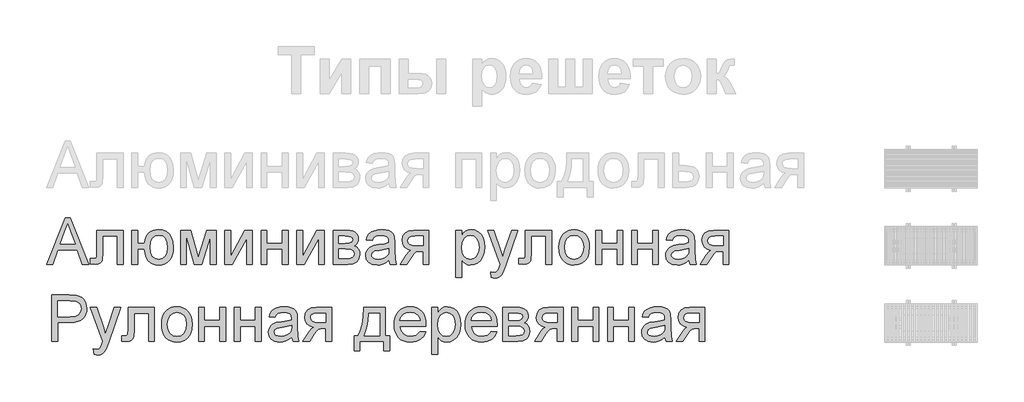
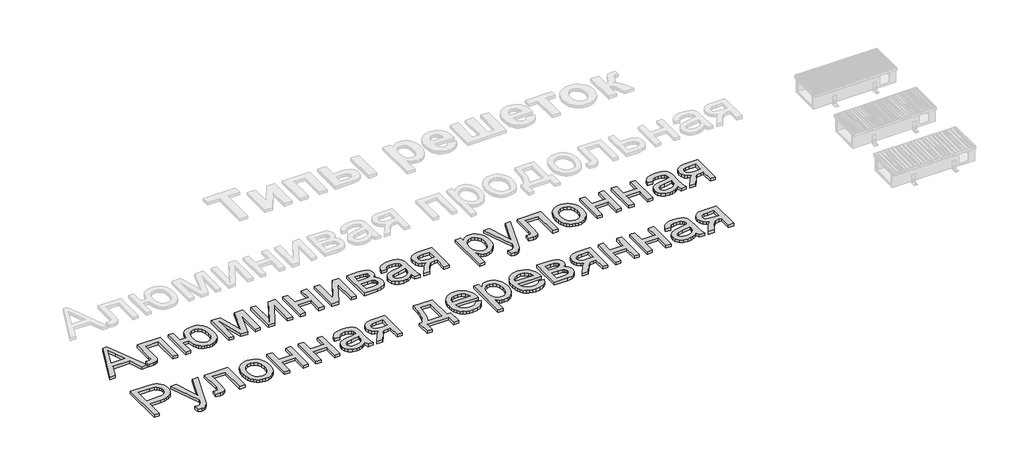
# One storey, part 3 of 12: 2 proxies.
"""IFC4 building model written with IfcOpenShell, lengths in millimetres."""

from ifc_helpers import new_model, si_unit, origin, origin_with_axes, place, context, project, spatial, polyline, outline, extrude, element, save

model = new_model("IFC4")

# Units and contexts
model_context = context("Model", 3, world=origin())
ifc_project = project(units=[si_unit("LENGTHUNIT", "METRE", prefix="MILLI")], contexts=[model_context])

# Site, building, storey
site = spatial("IfcSite", under=ifc_project)
building = spatial("IfcBuilding", under=site)
storey = spatial("IfcBuildingStorey", under=building, Name="Уровень 1", Elevation=0.0)

# Proxies
placement = place(None, origin())
element("IfcBuildingElementProxy", 1, Name="300", ObjectType="300", at=placement, inside=storey, context=model_context, shape_type="SweptSolid", body=[
    extrude(outline(polyline([(29.0156644, -13415.1127464), (149.3130768, -13113.7438159), (181.3923868, -13113.7438159), (301.6897992, -13415.1127464), (261.8849673, -13415.1127464), (227.3776362, -13320.9349556), (103.254251, -13320.9349556), (68.8204963, -13415.1127464), (29.0156644, -13415.1127464)]), holes=[polyline([(117.086614, -13283.2638393), (213.6188496, -13283.2638393), (186.4691583, -13209.1724055), (165.3527318, -13151.4149322), (146.5907501, -13202.6976824), (117.086614, -13283.2638393)])]), origin_with_axes(), (0.0, 0.0, 1.0), 20.0),
    extrude(outline(polyline([(356.0627581, -13193.7949381), (525.5827815, -13193.7949381), (525.5827815, -13414.8920172), (487.9116652, -13414.8920172), (487.9116652, -13231.4660544), (393.7338744, -13231.4660544), (393.7338744, -13337.048187), (391.1954887, -13385.7557632), (386.4406139, -13396.783026), (377.252761, -13406.3203667), (363.3100334, -13412.9146515), (344.2905343, -13415.1127464), (313.6827523, -13413.19976), (313.6827523, -13377.4416301), (330.5317476, -13377.4416301), (347.564684, -13375.1239735), (354.3705009, -13367.7663336), (356.0627581, -13334.9144714), (356.0627581, -13193.7949381)])), origin_with_axes(), (0.0, 0.0, 1.0), 20.0),
    extrude(outline(polyline([(582.0894559, -13193.7949381), (619.7605723, -13193.7949381), (619.7605723, -13278.5549498), (662.1405781, -13278.5549498), (671.9170421, -13240.1480695), (680.4404081, -13224.8073903), (691.3871967, -13212.041885), (704.4493068, -13201.9987066), (719.3186372, -13194.8250077), (754.4789589, -13189.0860485), (784.0290802, -13192.4613658), (806.6078376, -13202.5873178), (824.0270501, -13218.6361698), (838.0985364, -13239.7801875), (847.3967538, -13267.5920663), (850.4961596, -13303.6445018), (848.8935737, -13330.4998875), (844.0858159, -13353.8971824), (836.0728862, -13373.8363865), (824.8547846, -13390.3174999), (810.8913636, -13403.2255594), (794.6424757, -13412.4456019), (776.1081209, -13417.9776274), (755.2882993, -13419.8216359), (735.8848233, -13418.0925905), (718.5092968, -13412.9054544), (703.1617198, -13404.2602275), (689.8420923, -13392.1569099), (678.8815081, -13377.0369599), (670.611061, -13359.3418359), (662.1405781, -13316.2260661), (619.7605723, -13316.2260661), (619.7605723, -13415.1127464), (582.0894559, -13415.1127464), (582.0894559, -13193.7949381)]), holes=[polyline([(756.9069801, -13226.7571648), (732.8934828, -13231.6316013), (714.858068, -13246.2549106), (703.5732878, -13269.6705996), (699.8116944, -13300.9221751), (703.600879, -13337.3332956), (714.9684326, -13362.5424093), (732.6819507, -13377.248492), (755.5090285, -13382.1505196), (778.4004856, -13377.616374), (796.7486001, -13364.0139373), (808.8059325, -13340.3131397), (812.8250433, -13305.4839118), (809.3485585, -13271.04096), (798.9191039, -13246.4388516), (781.4631032, -13231.6775865), (756.9069801, -13226.7571648)])]), origin_with_axes(), (0.0, 0.0, 1.0), 20.0),
    extrude(outline(polyline([(897.585055, -13193.7949381), (962.4058626, -13193.7949381), (1012.3642375, -13370.966907), (1066.2221616, -13193.7949381), (1128.3206424, -13193.7949381), (1128.3206424, -13415.1127464), (1090.6495261, -13415.1127464), (1090.6495261, -13236.9107079), (1036.4972964, -13415.1127464), (987.0539562, -13415.1127464), (935.2561713, -13228.3758456), (935.2561713, -13415.1127464), (897.585055, -13415.1127464), (897.585055, -13193.7949381)])), origin_with_axes(), (0.0, 0.0, 1.0), 20.0),
    extrude(outline(polyline([(1184.8273168, -13193.7949381), (1222.4984332, -13193.7949381), (1222.4984332, -13362.5791975), (1315.0575431, -13193.7949381), (1363.7651193, -13193.7949381), (1363.7651193, -13415.1127464), (1326.094003, -13415.1127464), (1326.094003, -13247.3585566), (1234.1235042, -13415.1127464), (1184.8273168, -13415.1127464), (1184.8273168, -13193.7949381)])), origin_with_axes(), (0.0, 0.0, 1.0), 20.0),
    extrude(outline(polyline([(1420.2717938, -13193.7949381), (1457.9429101, -13193.7949381), (1457.9429101, -13278.5549498), (1556.8295904, -13278.5549498), (1556.8295904, -13193.7949381), (1594.5007067, -13193.7949381), (1594.5007067, -13415.1127464), (1556.8295904, -13415.1127464), (1556.8295904, -13316.2260661), (1457.9429101, -13316.2260661), (1457.9429101, -13415.1127464), (1420.2717938, -13415.1127464), (1420.2717938, -13193.7949381)])), origin_with_axes(), (0.0, 0.0, 1.0), 20.0),
    extrude(outline(polyline([(1651.0073811, -13193.7949381), (1688.6784974, -13193.7949381), (1688.6784974, -13362.5791975), (1781.2376074, -13193.7949381), (1829.9451836, -13193.7949381), (1829.9451836, -13415.1127464), (1792.2740673, -13415.1127464), (1792.2740673, -13247.3585566), (1700.3035685, -13415.1127464), (1651.0073811, -13415.1127464), (1651.0073811, -13193.7949381)])), origin_with_axes(), (0.0, 0.0, 1.0), 20.0),
    extrude(outline(polyline([(1886.451858, -13193.7949381), (1969.4460362, -13193.7949381), (1996.1266779, -13195.0549339), (2014.953039, -13198.8349214), (2028.8037961, -13205.9718321), (2040.5576258, -13217.3025976), (2048.5866504, -13232.0638626), (2051.2629919, -13249.4922722), (2049.6443111, -13263.5361673), (2044.7882688, -13275.648682), (2036.6764708, -13285.8849985), (2025.290523, -13294.3002992), (2039.2332506, -13302.1269886), (2050.6008043, -13314.7177499), (2058.1607793, -13331.0793016), (2060.680771, -13350.2183624), (2054.2980183, -13378.9315522), (2039.122886, -13399.1466678), (2015.1001918, -13411.1212267), (1982.1747532, -13415.1127464), (1886.451858, -13415.1127464), (1886.451858, -13193.7949381)]), holes=[polyline([(1924.1229744, -13278.5549498), (1961.3526323, -13278.5549498), (1992.0707789, -13276.6419634), (2007.0067879, -13268.9900179), (2011.9456037, -13262.6624476), (2013.5918756, -13255.1576549), (2010.7040019, -13243.9188599), (2002.0403809, -13236.6899787), (1986.387002, -13232.7720355), (1962.5298546, -13231.4660544), (1924.1229744, -13231.4660544), (1924.1229744, -13278.5549498)]), polyline([(1924.1229744, -13377.4416301), (1970.3289529, -13377.4416301), (1995.5104755, -13375.7401758), (2011.3110072, -13370.6358132), (2019.7906872, -13361.3559898), (2023.0096547, -13347.1281537), (2021.4001709, -13337.7011775), (2016.5717197, -13328.9915713), (2009.1588975, -13322.1765573), (1999.7963008, -13318.433358), (1966.650133, -13316.2260661), (1924.1229744, -13316.2260661), (1924.1229744, -13377.4416301)])]), origin_with_axes(), (0.0, 0.0, 1.0), 20.0),
    extrude(outline(polyline([(2249.0363525, -13386.8594092), (2231.0377259, -13402.2920588), (2212.5056704, -13412.3904196), (2193.0171217, -13417.9638318), (2172.1490155, -13419.8216359), (2140.6675138, -13415.3518697), (2117.4449628, -13401.942571), (2103.1251562, -13381.5803025), (2098.3518873, -13356.2516272), (2100.154509, -13340.6350365), (2105.5623744, -13326.4531855), (2113.9040986, -13314.3130797), (2124.5082971, -13304.8217242), (2150.8854362, -13292.4608892), (2183.479781, -13286.7955065), (2221.9970258, -13280.8358181), (2248.8156233, -13273.8460602), (2249.0363525, -13265.4583507), (2246.4427844, -13248.6461436), (2238.6620802, -13237.6464719), (2221.2612619, -13229.4794916), (2197.0178384, -13226.7571648), (2174.5770367, -13228.5689837), (2158.9052637, -13234.0044402), (2148.2182917, -13244.0568157), (2140.7318931, -13259.7193916), (2103.0607768, -13255.0105021), (2109.5998793, -13234.4091103), (2119.3579492, -13218.2223026), (2133.2454945, -13205.8430734), (2152.1730232, -13196.6644176), (2175.3219977, -13190.9806408), (2201.8738807, -13189.0860485), (2227.3405118, -13190.7599116), (2247.5280363, -13195.7815009), (2262.7491539, -13203.3322788), (2273.3165642, -13212.593708), (2280.3247162, -13224.0440351), (2284.8680588, -13238.1615067), (2286.7074688, -13271.1237335), (2286.7074688, -13317.9918997), (2288.6204552, -13383.4381066), (2296.1252479, -13415.1127464), (2258.4541316, -13415.1127464), (2249.0363525, -13386.8594092)]), holes=[polyline([(2249.0363525, -13311.5171765), (2188.2622469, -13323.0686712), (2155.8518431, -13329.1755123), (2141.1733515, -13339.1083262), (2136.0230036, -13353.6028768), (2138.8281038, -13364.8048835), (2147.2434044, -13373.9835393), (2161.0849645, -13380.1087745), (2180.168843, -13382.1505196), (2200.4023527, -13379.8972424), (2218.2814177, -13373.1374107), (2232.7759683, -13363.1770057), (2242.855935, -13351.3220084), (2247.3257012, -13339.1083262), (2248.8156233, -13322.1857544), (2249.0363525, -13311.5171765)])]), origin_with_axes(), (0.0, 0.0, 1.0), 20.0),
    extrude(outline(polyline([(2508.0252771, -13193.7949381), (2508.0252771, -13415.1127464), (2470.3541608, -13415.1127464), (2470.3541608, -13330.3527347), (2449.8263455, -13330.3527347), (2421.8673138, -13335.1352006), (2410.7020953, -13345.5646552), (2395.6005394, -13367.288087), (2365.5813686, -13415.1127464), (2322.0241403, -13415.1127464), (2359.8424094, -13354.6329464), (2376.544252, -13332.9279087), (2391.9217194, -13323.2894004), (2366.1699798, -13315.3983316), (2348.0701856, -13300.4071403), (2337.3648195, -13280.4679361), (2333.7963642, -13257.7328288), (2338.6708006, -13231.944301), (2353.2941099, -13211.5268502), (2377.1512573, -13198.2279161), (2409.727208, -13193.7949381), (2508.0252771, -13193.7949381)]), holes=[polyline([(2470.3541608, -13231.4660544), (2420.6900914, -13231.4660544), (2395.0395193, -13233.6457552), (2380.4805894, -13240.1848577), (2373.7207577, -13249.648622), (2371.4674805, -13260.6023084), (2374.7876155, -13274.9589033), (2384.7480205, -13284.9193083), (2403.1513173, -13290.7410409), (2431.8001277, -13292.6816184), (2470.3541608, -13292.6816184), (2470.3541608, -13231.4660544)])]), origin_with_axes(), (0.0, 0.0, 1.0), 20.0),
    extrude(outline(polyline([(2682.25419, -13499.8727581), (2682.25419, -13193.7949381), (2719.9253063, -13193.7949381), (2719.9253063, -13230.7302904), (2732.212565, -13212.5109346), (2745.9713516, -13199.497109), (2762.0110066, -13191.6888137), (2781.1408703, -13189.0860485), (2806.6166985, -13192.7280803), (2828.8919533, -13203.6541756), (2847.0285357, -13221.2021467), (2860.0883465, -13244.7098062), (2867.9794153, -13272.4665028), (2870.6097715, -13302.7615851), (2867.6391244, -13334.9788508), (2858.7271831, -13363.7932081), (2844.1590561, -13387.7423259), (2824.219852, -13405.3638735), (2800.997301, -13416.2071953), (2776.5791336, -13419.8216359), (2759.2610887, -13417.4028118), (2743.8008478, -13410.1463394), (2730.566293, -13399.192653), (2719.9253063, -13385.6821868), (2719.9253063, -13499.8727581), (2682.25419, -13499.8727581)]), holes=[polyline([(2719.9253063, -13306.2196758), (2723.9995994, -13339.991243), (2736.2224787, -13363.6092671), (2754.2578935, -13377.5152065), (2775.7697932, -13382.1505196), (2797.6311808, -13377.3496596), (2816.1264481, -13362.9470795), (2828.7356034, -13338.4645327), (2832.9386552, -13303.4237726), (2828.836771, -13269.8361465), (2816.5311183, -13245.8870286), (2798.5232946, -13231.5396308), (2777.3148976, -13226.7571648), (2756.0237271, -13231.8431334), (2737.3261247, -13247.1010392), (2724.2755109, -13272.0526355), (2719.9253063, -13306.2196758)])]), origin_with_axes(), (0.0, 0.0, 1.0), 20.0),
    extrude(outline(polyline([(2912.9897774, -13499.8727581), (2908.2808879, -13463.5995933), (2927.4107516, -13466.9105313), (2945.2898166, -13462.7534648), (2956.2527, -13451.1651819), (2966.5533959, -13423.4268795), (2969.4964518, -13414.303406), (2889.4453297, -13193.7949381), (2929.1765852, -13193.7949381), (2971.6301674, -13316.6675245), (2986.4190236, -13365.816559), (3001.2078798, -13322.4064836), (3044.8386845, -13193.7949381), (3084.2756343, -13193.7949381), (3007.2411446, -13420.4102471), (2987.228364, -13469.5592817), (2976.9828504, -13485.2494488), (2965.3761735, -13496.1203617), (2951.8932984, -13502.4663261), (2936.0191903, -13504.5816476), (2912.9897774, -13499.8727581)])), origin_with_axes(), (0.0, 0.0, 1.0), 20.0),
    extrude(outline(polyline([(3134.3075857, -13193.7949381), (3303.8276091, -13193.7949381), (3303.8276091, -13414.8920172), (3266.1564928, -13414.8920172), (3266.1564928, -13231.4660544), (3171.978702, -13231.4660544), (3171.978702, -13337.048187), (3169.4403162, -13385.7557632), (3164.6854414, -13396.783026), (3155.4975886, -13406.3203667), (3141.554861, -13412.9146515), (3122.5353618, -13415.1127464), (3091.9275798, -13413.19976), (3091.9275798, -13377.4416301), (3108.7765752, -13377.4416301), (3125.8095116, -13375.1239735), (3132.6153285, -13367.7663336), (3134.3075857, -13334.9144714), (3134.3075857, -13193.7949381)])), origin_with_axes(), (0.0, 0.0, 1.0), 20.0),
    extrude(outline(polyline([(3350.9165044, -13304.4538422), (3352.953651, -13275.7912363), (3359.0650906, -13251.0925588), (3369.2508234, -13230.3578099), (3383.5108492, -13213.5869894), (3397.8674441, -13202.8678278), (3413.713961, -13195.2112838), (3431.0504, -13190.6173573), (3449.8767611, -13189.0860485), (3470.6597946, -13190.9507504), (3489.4516668, -13196.544856), (3506.2523776, -13205.8683653), (3521.0619272, -13218.9212784), (3533.14915, -13235.2621367), (3541.7828806, -13254.449482), (3546.9631189, -13276.4833143), (3548.6898651, -13301.3636335), (3545.6364445, -13339.4210259), (3536.4761828, -13368.391733), (3521.4757945, -13390.0875737), (3500.9019939, -13406.3203667), (3476.4654324, -13416.4463186), (3449.8767611, -13419.8216359), (3428.790225, -13417.9638318), (3409.8236089, -13412.3904196), (3392.9769128, -13403.1013992), (3378.2501367, -13390.0967707), (3366.2916726, -13373.5972632), (3357.7499125, -13353.823606), (3352.6248565, -13330.775799), (3350.9165044, -13304.4538422)]), holes=[polyline([(3388.5876208, -13304.3802658), (3392.9470224, -13338.4737297), (3406.0252273, -13362.7631385), (3425.7069141, -13377.3036743), (3449.8767611, -13382.1505196), (3473.9362436, -13377.2760832), (3493.5811422, -13362.6527739), (3506.6593471, -13338.0414684), (3511.0187487, -13303.2030434), (3506.631756, -13270.1028609), (3493.4707776, -13246.144546), (3473.7982879, -13231.6040101), (3449.8767611, -13226.7571648), (3425.7069141, -13231.585616), (3406.0252273, -13246.0709696), (3392.9470224, -13270.305196), (3388.5876208, -13304.3802658)])]), origin_with_axes(), (0.0, 0.0, 1.0), 20.0),
    extrude(outline(polyline([(3591.0698709, -13193.7949381), (3628.7409872, -13193.7949381), (3628.7409872, -13278.5549498), (3727.6276675, -13278.5549498), (3727.6276675, -13193.7949381), (3765.2987838, -13193.7949381), (3765.2987838, -13415.1127464), (3727.6276675, -13415.1127464), (3727.6276675, -13316.2260661), (3628.7409872, -13316.2260661), (3628.7409872, -13415.1127464), (3591.0698709, -13415.1127464), (3591.0698709, -13193.7949381)])), origin_with_axes(), (0.0, 0.0, 1.0), 20.0),
    extrude(outline(polyline([(3821.8054583, -13193.7949381), (3859.4765746, -13193.7949381), (3859.4765746, -13278.5549498), (3958.3632549, -13278.5549498), (3958.3632549, -13193.7949381), (3996.0343712, -13193.7949381), (3996.0343712, -13415.1127464), (3958.3632549, -13415.1127464), (3958.3632549, -13316.2260661), (3859.4765746, -13316.2260661), (3859.4765746, -13415.1127464), (3821.8054583, -13415.1127464), (3821.8054583, -13193.7949381)])), origin_with_axes(), (0.0, 0.0, 1.0), 20.0),
    extrude(outline(polyline([(4193.8077318, -13386.8594092), (4175.8091052, -13402.2920588), (4157.2770497, -13412.3904196), (4137.788501, -13417.9638318), (4116.9203948, -13419.8216359), (4085.4388931, -13415.3518697), (4062.2163421, -13401.942571), (4047.8965355, -13381.5803025), (4043.1232666, -13356.2516272), (4044.9258883, -13340.6350365), (4050.3337537, -13326.4531855), (4058.6754779, -13314.3130797), (4069.2796764, -13304.8217242), (4095.6568155, -13292.4608892), (4128.2511603, -13286.7955065), (4166.7684052, -13280.8358181), (4193.5870026, -13273.8460602), (4193.8077318, -13265.4583507), (4191.2141637, -13248.6461436), (4183.4334595, -13237.6464719), (4166.0326412, -13229.4794916), (4141.7892177, -13226.7571648), (4119.348416, -13228.5689837), (4103.676643, -13234.0044402), (4092.989671, -13244.0568157), (4085.5032724, -13259.7193916), (4047.8321561, -13255.0105021), (4054.3712586, -13234.4091103), (4064.1293285, -13218.2223026), (4078.0168738, -13205.8430734), (4096.9444025, -13196.6644176), (4120.093377, -13190.9806408), (4146.64526, -13189.0860485), (4172.1118911, -13190.7599116), (4192.2994156, -13195.7815009), (4207.5205332, -13203.3322788), (4218.0879435, -13212.593708), (4225.0960955, -13224.0440351), (4229.6394381, -13238.1615067), (4231.4788481, -13271.1237335), (4231.4788481, -13317.9918997), (4233.3918345, -13383.4381066), (4240.8966272, -13415.1127464), (4203.2255109, -13415.1127464), (4193.8077318, -13386.8594092)]), holes=[polyline([(4193.8077318, -13311.5171765), (4133.0336262, -13323.0686712), (4100.6232224, -13329.1755123), (4085.9447308, -13339.1083262), (4080.7943829, -13353.6028768), (4083.5994831, -13364.8048835), (4092.0147837, -13373.9835393), (4105.8563438, -13380.1087745), (4124.9402223, -13382.1505196), (4145.173732, -13379.8972424), (4163.052797, -13373.1374107), (4177.5473476, -13363.1770057), (4187.6273143, -13351.3220084), (4192.0970805, -13339.1083262), (4193.5870026, -13322.1857544), (4193.8077318, -13311.5171765)])]), origin_with_axes(), (0.0, 0.0, 1.0), 20.0),
    extrude(outline(polyline([(4452.7966564, -13193.7949381), (4452.7966564, -13415.1127464), (4415.1255401, -13415.1127464), (4415.1255401, -13330.3527347), (4394.5977248, -13330.3527347), (4366.6386931, -13335.1352006), (4355.4734746, -13345.5646552), (4340.3719187, -13367.288087), (4310.3527479, -13415.1127464), (4266.7955196, -13415.1127464), (4304.6137887, -13354.6329464), (4321.3156313, -13332.9279087), (4336.6930987, -13323.2894004), (4310.9413591, -13315.3983316), (4292.8415649, -13300.4071403), (4282.1361988, -13280.4679361), (4278.5677435, -13257.7328288), (4283.4421799, -13231.944301), (4298.0654892, -13211.5268502), (4321.9226366, -13198.2279161), (4354.4985873, -13193.7949381), (4452.7966564, -13193.7949381)]), holes=[polyline([(4415.1255401, -13231.4660544), (4365.4614707, -13231.4660544), (4339.8108986, -13233.6457552), (4325.2519687, -13240.1848577), (4318.492137, -13249.648622), (4316.2388598, -13260.6023084), (4319.5589948, -13274.9589033), (4329.5193998, -13284.9193083), (4347.9226966, -13290.7410409), (4376.571507, -13292.6816184), (4415.1255401, -13292.6816184), (4415.1255401, -13231.4660544)])]), origin_with_axes(), (0.0, 0.0, 1.0), 20.0),
])
element("IfcBuildingElementProxy", 2, Name="300", ObjectType="300", at=placement, inside=storey, context=model_context, shape_type="SweptSolid", body=[
    extrude(outline(polyline([(64.1116067, -13915.1127464), (64.1116067, -13613.7438159), (175.8005805, -13613.7438159), (220.8293367, -13616.6132955), (240.9064966, -13621.9751756), (257.4335952, -13630.7031759), (270.7417264, -13643.1927696), (281.1619839, -13659.8394299), (287.8942244, -13679.4751314), (290.1383046, -13700.9318488), (288.6230906, -13719.4317146), (284.0774487, -13736.4508554), (276.5013789, -13751.9892712), (265.8948811, -13766.0469619), (251.3336519, -13777.6996241), (231.8933877, -13786.0229543), (207.5740885, -13791.0169524), (178.3757544, -13792.6816184), (101.782723, -13792.6816184), (101.782723, -13915.1127464), (64.1116067, -13915.1127464)]), holes=[polyline([(101.782723, -13755.0105021), (180.5830464, -13755.0105021), (213.9867316, -13751.5524113), (236.0596513, -13741.1781391), (248.365304, -13724.5314788), (252.4671883, -13702.256224), (250.0483642, -13685.3336522), (242.7918918, -13671.0598308), (231.5990821, -13660.3176765), (217.3712459, -13653.9901062), (179.7001296, -13651.4149322), (101.782723, -13651.4149322), (101.782723, -13755.0105021)])]), origin_with_axes(), (0.0, 0.0, 1.0), 20.0),
    extrude(outline(polyline([(337.2272, -13999.8727581), (332.5183104, -13963.5995933), (351.6481742, -13966.9105313), (369.5272391, -13962.7534648), (380.4901226, -13951.1651819), (390.7908185, -13923.4268795), (393.7338744, -13914.303406), (313.6827523, -13693.7949381), (353.4140077, -13693.7949381), (395.86759, -13816.6675245), (410.6564462, -13865.816559), (425.4453024, -13822.4064836), (469.076107, -13693.7949381), (508.5130569, -13693.7949381), (431.4785671, -13920.4102471), (411.4657866, -13969.5592817), (401.220273, -13985.2494488), (389.6135961, -13996.1203617), (376.1307209, -14002.4663261), (360.2566129, -14004.5816476), (337.2272, -13999.8727581)])), origin_with_axes(), (0.0, 0.0, 1.0), 20.0),
    extrude(outline(polyline([(558.5450083, -13693.7949381), (728.0650316, -13693.7949381), (728.0650316, -13914.8920172), (690.3939153, -13914.8920172), (690.3939153, -13731.4660544), (596.2161246, -13731.4660544), (596.2161246, -13837.048187), (593.6777388, -13885.7557632), (588.922864, -13896.783026), (579.7350112, -13906.3203667), (565.7922836, -13912.9146515), (546.7727844, -13915.1127464), (516.1650024, -13913.19976), (516.1650024, -13877.4416301), (533.0139978, -13877.4416301), (550.0469342, -13875.1239735), (556.8527511, -13867.7663336), (558.5450083, -13834.9144714), (558.5450083, -13693.7949381)])), origin_with_axes(), (0.0, 0.0, 1.0), 20.0),
    extrude(outline(polyline([(775.153927, -13804.4538422), (777.1910736, -13775.7912363), (783.3025132, -13751.0925588), (793.488246, -13730.3578099), (807.7482718, -13713.5869894), (822.1048667, -13702.8678278), (837.9513836, -13695.2112838), (855.2878226, -13690.6173573), (874.1141837, -13689.0860485), (894.8972172, -13690.9507504), (913.6890894, -13696.544856), (930.4898002, -13705.8683653), (945.2993498, -13718.9212784), (957.3865726, -13735.2621367), (966.0203032, -13754.449482), (971.2005415, -13776.4833143), (972.9272876, -13801.3636335), (969.8738671, -13839.4210259), (960.7136054, -13868.391733), (945.713217, -13890.0875737), (925.1394165, -13906.3203667), (900.7028549, -13916.4463186), (874.1141837, -13919.8216359), (853.0276476, -13917.9638318), (834.0610315, -13912.3904196), (817.2143354, -13903.1013992), (802.4875593, -13890.0967707), (790.5290952, -13873.5972632), (781.9873351, -13853.823606), (776.862279, -13830.775799), (775.153927, -13804.4538422)]), holes=[polyline([(812.8250433, -13804.3802658), (817.184445, -13838.4737297), (830.2626499, -13862.7631385), (849.9443366, -13877.3036743), (874.1141837, -13882.1505196), (898.1736662, -13877.2760832), (917.8185647, -13862.6527739), (930.8967697, -13838.0414684), (935.2561713, -13803.2030434), (930.8691785, -13770.1028609), (917.7082001, -13746.144546), (898.0357105, -13731.6040101), (874.1141837, -13726.7571648), (849.9443366, -13731.585616), (830.2626499, -13746.0709696), (817.184445, -13770.305196), (812.8250433, -13804.3802658)])]), origin_with_axes(), (0.0, 0.0, 1.0), 20.0),
    extrude(outline(polyline([(1015.3072935, -13693.7949381), (1052.9784098, -13693.7949381), (1052.9784098, -13778.5549498), (1151.8650901, -13778.5549498), (1151.8650901, -13693.7949381), (1189.5362064, -13693.7949381), (1189.5362064, -13915.1127464), (1151.8650901, -13915.1127464), (1151.8650901, -13816.2260661), (1052.9784098, -13816.2260661), (1052.9784098, -13915.1127464), (1015.3072935, -13915.1127464), (1015.3072935, -13693.7949381)])), origin_with_axes(), (0.0, 0.0, 1.0), 20.0),
    extrude(outline(polyline([(1246.0428808, -13693.7949381), (1283.7139971, -13693.7949381), (1283.7139971, -13778.5549498), (1382.6006775, -13778.5549498), (1382.6006775, -13693.7949381), (1420.2717938, -13693.7949381), (1420.2717938, -13915.1127464), (1382.6006775, -13915.1127464), (1382.6006775, -13816.2260661), (1283.7139971, -13816.2260661), (1283.7139971, -13915.1127464), (1246.0428808, -13915.1127464), (1246.0428808, -13693.7949381)])), origin_with_axes(), (0.0, 0.0, 1.0), 20.0),
    extrude(outline(polyline([(1618.0451544, -13886.8594092), (1600.0465278, -13902.2920588), (1581.5144722, -13912.3904196), (1562.0259236, -13917.9638318), (1541.1578174, -13919.8216359), (1509.6763156, -13915.3518697), (1486.4537647, -13901.942571), (1472.133958, -13881.5803025), (1467.3606891, -13856.2516272), (1469.1633109, -13840.6350365), (1474.5711762, -13826.4531855), (1482.9129005, -13814.3130797), (1493.517099, -13804.8217242), (1519.8942381, -13792.4608892), (1552.4885828, -13786.7955065), (1591.0058277, -13780.8358181), (1617.8244252, -13773.8460602), (1618.0451544, -13765.4583507), (1615.4515863, -13748.6461436), (1607.6708821, -13737.6464719), (1590.2700637, -13729.4794916), (1566.0266402, -13726.7571648), (1543.5858385, -13728.5689837), (1527.9140655, -13734.0044402), (1517.2270936, -13744.0568157), (1509.740695, -13759.7193916), (1472.0695787, -13755.0105021), (1478.6086811, -13734.4091103), (1488.3667511, -13718.2223026), (1502.2542964, -13705.8430734), (1521.181825, -13696.6644176), (1544.3307996, -13690.9806408), (1570.8826826, -13689.0860485), (1596.3493137, -13690.7599116), (1616.5368382, -13695.7815009), (1631.7579557, -13703.3322788), (1642.325366, -13712.593708), (1649.3335181, -13724.0440351), (1653.8768607, -13738.1615067), (1655.7162707, -13771.1237335), (1655.7162707, -13817.9918997), (1657.629257, -13883.4381066), (1665.1340497, -13915.1127464), (1627.4629334, -13915.1127464), (1618.0451544, -13886.8594092)]), holes=[polyline([(1618.0451544, -13811.5171765), (1557.2710488, -13823.0686712), (1524.860645, -13829.1755123), (1510.1821534, -13839.1083262), (1505.0318054, -13853.6028768), (1507.8369057, -13864.8048835), (1516.2522063, -13873.9835393), (1530.0937664, -13880.1087745), (1549.1776449, -13882.1505196), (1569.4111546, -13879.8972424), (1587.2902196, -13873.1374107), (1601.7847702, -13863.1770057), (1611.8647368, -13851.3220084), (1616.3345031, -13839.1083262), (1617.8244252, -13822.1857544), (1618.0451544, -13811.5171765)])]), origin_with_axes(), (0.0, 0.0, 1.0), 20.0),
    extrude(outline(polyline([(1877.034079, -13693.7949381), (1877.034079, -13915.1127464), (1839.3629627, -13915.1127464), (1839.3629627, -13830.3527347), (1818.8351473, -13830.3527347), (1790.8761157, -13835.1352006), (1779.7108971, -13845.5646552), (1764.6093412, -13867.288087), (1734.5901704, -13915.1127464), (1691.0329422, -13915.1127464), (1728.8512113, -13854.6329464), (1745.5530539, -13832.9279087), (1760.9305213, -13823.2894004), (1735.1787816, -13815.3983316), (1717.0789875, -13800.4071403), (1706.3736214, -13780.4679361), (1702.8051661, -13757.7328288), (1707.6796025, -13731.944301), (1722.3029118, -13711.5268502), (1746.1600592, -13698.2279161), (1778.7360099, -13693.7949381), (1877.034079, -13693.7949381)]), holes=[polyline([(1839.3629627, -13731.4660544), (1789.6988933, -13731.4660544), (1764.0483212, -13733.6457552), (1749.4893912, -13740.1848577), (1742.7295596, -13749.648622), (1740.4762824, -13760.6023084), (1743.7964174, -13774.9589033), (1753.7568224, -13784.9193083), (1772.1601192, -13790.7410409), (1800.8089296, -13792.6816184), (1839.3629627, -13792.6816184), (1839.3629627, -13731.4660544)])]), origin_with_axes(), (0.0, 0.0, 1.0), 20.0),
    extrude(outline(polyline([(2084.2252187, -13693.7949381), (2225.4919048, -13693.7949381), (2225.4919048, -13877.4416301), (2253.745242, -13877.4416301), (2253.745242, -13976.3283104), (2216.0741257, -13976.3283104), (2216.0741257, -13915.1127464), (2060.680771, -13915.1127464), (2060.680771, -13976.3283104), (2023.0096547, -13976.3283104), (2023.0096547, -13877.4416301), (2046.5541023, -13877.4416301), (2063.6698122, -13846.5119513), (2075.6535682, -13805.5942764), (2082.5053703, -13754.6886053), (2084.2252187, -13693.7949381)]), holes=[polyline([(2117.1874454, -13731.4660544), (2114.0972367, -13777.5892595), (2108.3582775, -13817.2929239), (2099.970568, -13850.5770474), (2088.9341082, -13877.4416301), (2187.8207885, -13877.4416301), (2187.8207885, -13731.4660544), (2117.1874454, -13731.4660544)])]), origin_with_axes(), (0.0, 0.0, 1.0), 20.0),
    extrude(outline(polyline([(2451.0771442, -13849.1882928), (2488.0124966, -13853.8971824), (2474.7043654, -13881.7274553), (2453.4683772, -13902.5311821), (2424.7827786, -13915.4990225), (2389.1258163, -13919.8216359), (2365.751514, -13917.9569341), (2344.9247945, -13912.3628285), (2326.6456579, -13903.0393192), (2310.9141041, -13889.9864061), (2298.263562, -13873.5673728), (2289.2274605, -13854.1455027), (2283.8057996, -13831.7207959), (2281.9985793, -13806.2932522), (2283.8241937, -13780.0034851), (2289.3010369, -13756.831518), (2298.4291089, -13736.7773507), (2311.2084097, -13719.8409833), (2326.8985768, -13706.3856994), (2344.7592476, -13696.7747822), (2364.7904223, -13691.008232), (2386.9921007, -13689.0860485), (2408.4787085, -13691.0036334), (2427.9097756, -13696.7563881), (2445.2853021, -13706.3443126), (2460.6052879, -13719.7674069), (2473.1109765, -13736.6669861), (2482.0436112, -13756.6843652), (2487.403192, -13779.8195441), (2489.1897189, -13806.072523), (2488.9689897, -13816.2260661), (2319.6696956, -13816.2260661), (2326.1904039, -13844.424221), (2341.3379451, -13865.1543714), (2363.1993326, -13877.9014826), (2389.8615802, -13882.1505196), (2409.911149, -13880.1823509), (2426.7969326, -13874.2778449), (2440.518931, -13864.0691195), (2451.0771442, -13849.1882928)]), holes=[polyline([(2319.6696956, -13778.5549498), (2451.5186026, -13778.5549498), (2446.423437, -13758.6525338), (2436.4354408, -13744.4155006), (2414.4728857, -13731.1717488), (2386.8449479, -13726.7571648), (2361.4518932, -13730.279635), (2340.4550283, -13740.8470453), (2325.8593101, -13757.3189616), (2319.6696956, -13778.5549498)])]), origin_with_axes(), (0.0, 0.0, 1.0), 20.0),
    extrude(outline(polyline([(2526.8608353, -13999.8727581), (2526.8608353, -13693.7949381), (2564.5319516, -13693.7949381), (2564.5319516, -13730.7302904), (2576.8192102, -13712.5109346), (2590.5779968, -13699.497109), (2606.6176518, -13691.6888137), (2625.7475156, -13689.0860485), (2651.2233437, -13692.7280803), (2673.4985985, -13703.6541756), (2691.6351809, -13721.2021467), (2704.6949917, -13744.7098062), (2712.5860605, -13772.4665028), (2715.2164168, -13802.7615851), (2712.2457697, -13834.9788508), (2703.3338283, -13863.7932081), (2688.7657013, -13887.7423259), (2668.8264972, -13905.3638735), (2645.6039462, -13916.2071953), (2621.1857788, -13919.8216359), (2603.8677339, -13917.4028118), (2588.407493, -13910.1463394), (2575.1729383, -13899.192653), (2564.5319516, -13885.6821868), (2564.5319516, -13999.8727581), (2526.8608353, -13999.8727581)]), holes=[polyline([(2564.5319516, -13806.2196758), (2568.6062447, -13839.991243), (2580.8291239, -13863.6092671), (2598.8645388, -13877.5152065), (2620.3764384, -13882.1505196), (2642.237826, -13877.3496596), (2660.7330933, -13862.9470795), (2673.3422487, -13838.4645327), (2677.5453005, -13803.4237726), (2673.4434162, -13769.8361465), (2661.1377635, -13745.8870286), (2643.1299398, -13731.5396308), (2621.9215428, -13726.7571648), (2600.6303723, -13731.8431334), (2581.9327699, -13747.1010392), (2568.8821561, -13772.0526355), (2564.5319516, -13806.2196758)])]), origin_with_axes(), (0.0, 0.0, 1.0), 20.0),
    extrude(outline(polyline([(2912.548319, -13849.1882928), (2949.4836713, -13853.8971824), (2936.1755401, -13881.7274553), (2914.939552, -13902.5311821), (2886.2539534, -13915.4990225), (2850.596991, -13919.8216359), (2827.2226887, -13917.9569341), (2806.3959693, -13912.3628285), (2788.1168327, -13903.0393192), (2772.3852788, -13889.9864061), (2759.7347367, -13873.5673728), (2750.6986352, -13854.1455027), (2745.2769743, -13831.7207959), (2743.469754, -13806.2932522), (2745.2953684, -13780.0034851), (2750.7722116, -13756.831518), (2759.9002836, -13736.7773507), (2772.6795844, -13719.8409833), (2788.3697515, -13706.3856994), (2806.2304224, -13696.7747822), (2826.261597, -13691.008232), (2848.4632754, -13689.0860485), (2869.9498832, -13691.0036334), (2889.3809503, -13696.7563881), (2906.7564768, -13706.3443126), (2922.0764627, -13719.7674069), (2934.5821512, -13736.6669861), (2943.5147859, -13756.6843652), (2948.8743668, -13779.8195441), (2950.6608937, -13806.072523), (2950.4401645, -13816.2260661), (2781.1408703, -13816.2260661), (2787.6615787, -13844.424221), (2802.8091198, -13865.1543714), (2824.6705074, -13877.9014826), (2851.332755, -13882.1505196), (2871.3823237, -13880.1823509), (2888.2681073, -13874.2778449), (2901.9901057, -13864.0691195), (2912.548319, -13849.1882928)]), holes=[polyline([(2781.1408703, -13778.5549498), (2912.9897774, -13778.5549498), (2907.8946118, -13758.6525338), (2897.9066156, -13744.4155006), (2875.9440605, -13731.1717488), (2848.3161226, -13726.7571648), (2822.9230679, -13730.279635), (2801.926203, -13740.8470453), (2787.3304849, -13757.3189616), (2781.1408703, -13778.5549498)])]), origin_with_axes(), (0.0, 0.0, 1.0), 20.0),
    extrude(outline(polyline([(2988.33201, -13693.7949381), (3071.3261881, -13693.7949381), (3098.0068298, -13695.0549339), (3116.8331909, -13698.8349214), (3130.683948, -13705.9718321), (3142.4377778, -13717.3025976), (3150.4668023, -13732.0638626), (3153.1431438, -13749.4922722), (3151.5244631, -13763.5361673), (3146.6684207, -13775.648682), (3138.5566227, -13785.8849985), (3127.170675, -13794.3002992), (3141.1134026, -13802.1269886), (3152.4809562, -13814.7177499), (3160.0409312, -13831.0793016), (3162.5609229, -13850.2183624), (3156.1781703, -13878.9315522), (3141.003038, -13899.1466678), (3116.9803437, -13911.1212267), (3084.0549051, -13915.1127464), (2988.33201, -13915.1127464), (2988.33201, -13693.7949381)]), holes=[polyline([(3026.0031263, -13778.5549498), (3063.2327842, -13778.5549498), (3093.9509308, -13776.6419634), (3108.8869398, -13768.9900179), (3113.8257556, -13762.6624476), (3115.4720275, -13755.1576549), (3112.5841539, -13743.9188599), (3103.9205329, -13736.6899787), (3088.267154, -13732.7720355), (3064.4100066, -13731.4660544), (3026.0031263, -13731.4660544), (3026.0031263, -13778.5549498)]), polyline([(3026.0031263, -13877.4416301), (3072.2091049, -13877.4416301), (3097.3906275, -13875.7401758), (3113.1911592, -13870.6358132), (3121.6708392, -13861.3559898), (3124.8898066, -13847.1281537), (3123.2803229, -13837.7011775), (3118.4518717, -13828.9915713), (3111.0390495, -13822.1765573), (3101.6764527, -13818.433358), (3068.5302849, -13816.2260661), (3026.0031263, -13816.2260661), (3026.0031263, -13877.4416301)])]), origin_with_axes(), (0.0, 0.0, 1.0), 20.0),
    extrude(outline(polyline([(3379.1698417, -13693.7949381), (3379.1698417, -13915.1127464), (3341.4987254, -13915.1127464), (3341.4987254, -13830.3527347), (3320.97091, -13830.3527347), (3293.0118784, -13835.1352006), (3281.8466599, -13845.5646552), (3266.745104, -13867.288087), (3236.7259331, -13915.1127464), (3193.1687049, -13915.1127464), (3230.986974, -13854.6329464), (3247.6888166, -13832.9279087), (3263.066284, -13823.2894004), (3237.3145443, -13815.3983316), (3219.2147502, -13800.4071403), (3208.5093841, -13780.4679361), (3204.9409288, -13757.7328288), (3209.8153652, -13731.944301), (3224.4386745, -13711.5268502), (3248.2958219, -13698.2279161), (3280.8717726, -13693.7949381), (3379.1698417, -13693.7949381)]), holes=[polyline([(3341.4987254, -13731.4660544), (3291.834656, -13731.4660544), (3266.1840839, -13733.6457552), (3251.6251539, -13740.1848577), (3244.8653223, -13749.648622), (3242.6120451, -13760.6023084), (3245.9321801, -13774.9589033), (3255.8925851, -13784.9193083), (3274.2958819, -13790.7410409), (3302.9446923, -13792.6816184), (3341.4987254, -13792.6816184), (3341.4987254, -13731.4660544)])]), origin_with_axes(), (0.0, 0.0, 1.0), 20.0),
    extrude(outline(polyline([(3435.6765161, -13693.7949381), (3473.3476324, -13693.7949381), (3473.3476324, -13778.5549498), (3572.2343127, -13778.5549498), (3572.2343127, -13693.7949381), (3609.9054291, -13693.7949381), (3609.9054291, -13915.1127464), (3572.2343127, -13915.1127464), (3572.2343127, -13816.2260661), (3473.3476324, -13816.2260661), (3473.3476324, -13915.1127464), (3435.6765161, -13915.1127464), (3435.6765161, -13693.7949381)])), origin_with_axes(), (0.0, 0.0, 1.0), 20.0),
    extrude(outline(polyline([(3666.4121035, -13693.7949381), (3704.0832198, -13693.7949381), (3704.0832198, -13778.5549498), (3802.9699001, -13778.5549498), (3802.9699001, -13693.7949381), (3840.6410164, -13693.7949381), (3840.6410164, -13915.1127464), (3802.9699001, -13915.1127464), (3802.9699001, -13816.2260661), (3704.0832198, -13816.2260661), (3704.0832198, -13915.1127464), (3666.4121035, -13915.1127464), (3666.4121035, -13693.7949381)])), origin_with_axes(), (0.0, 0.0, 1.0), 20.0),
    extrude(outline(polyline([(4038.414377, -13886.8594092), (4020.4157504, -13902.2920588), (4001.8836949, -13912.3904196), (3982.3951462, -13917.9638318), (3961.52704, -13919.8216359), (3930.0455383, -13915.3518697), (3906.8229874, -13901.942571), (3892.5031807, -13881.5803025), (3887.7299118, -13856.2516272), (3889.5325336, -13840.6350365), (3894.9403989, -13826.4531855), (3903.2821232, -13814.3130797), (3913.8863217, -13804.8217242), (3940.2634607, -13792.4608892), (3972.8578055, -13786.7955065), (4011.3750504, -13780.8358181), (4038.1936478, -13773.8460602), (4038.414377, -13765.4583507), (4035.820809, -13748.6461436), (4028.0401048, -13737.6464719), (4010.6392864, -13729.4794916), (3986.3958629, -13726.7571648), (3963.9550612, -13728.5689837), (3948.2832882, -13734.0044402), (3937.5963163, -13744.0568157), (3930.1099177, -13759.7193916), (3892.4388013, -13755.0105021), (3898.9779038, -13734.4091103), (3908.7359737, -13718.2223026), (3922.6235191, -13705.8430734), (3941.5510477, -13696.6644176), (3964.7000222, -13690.9806408), (3991.2519053, -13689.0860485), (4016.7185364, -13690.7599116), (4036.9060609, -13695.7815009), (4052.1271784, -13703.3322788), (4062.6945887, -13712.593708), (4069.7027407, -13724.0440351), (4074.2460834, -13738.1615067), (4076.0854933, -13771.1237335), (4076.0854933, -13817.9918997), (4077.9984797, -13883.4381066), (4085.5032724, -13915.1127464), (4047.8321561, -13915.1127464), (4038.414377, -13886.8594092)]), holes=[polyline([(4038.414377, -13811.5171765), (3977.6402714, -13823.0686712), (3945.2298677, -13829.1755123), (3930.551376, -13839.1083262), (3925.4010281, -13853.6028768), (3928.2061283, -13864.8048835), (3936.621429, -13873.9835393), (3950.462989, -13880.1087745), (3969.5468675, -13882.1505196), (3989.7803773, -13879.8972424), (4007.6594422, -13873.1374107), (4022.1539928, -13863.1770057), (4032.2339595, -13851.3220084), (4036.7037258, -13839.1083262), (4038.1936478, -13822.1857544), (4038.414377, -13811.5171765)])]), origin_with_axes(), (0.0, 0.0, 1.0), 20.0),
    extrude(outline(polyline([(4297.4033016, -13693.7949381), (4297.4033016, -13915.1127464), (4259.7321853, -13915.1127464), (4259.7321853, -13830.3527347), (4239.20437, -13830.3527347), (4211.2453384, -13835.1352006), (4200.0801198, -13845.5646552), (4184.9785639, -13867.288087), (4154.9593931, -13915.1127464), (4111.4021649, -13915.1127464), (4149.220434, -13854.6329464), (4165.9222766, -13832.9279087), (4181.299744, -13823.2894004), (4155.5480043, -13815.3983316), (4137.4482101, -13800.4071403), (4126.7428441, -13780.4679361), (4123.1743887, -13757.7328288), (4128.0488252, -13731.944301), (4142.6721345, -13711.5268502), (4166.5292819, -13698.2279161), (4199.1052325, -13693.7949381), (4297.4033016, -13693.7949381)]), holes=[polyline([(4259.7321853, -13731.4660544), (4210.068116, -13731.4660544), (4184.4175439, -13733.6457552), (4169.8586139, -13740.1848577), (4163.0987822, -13749.648622), (4160.845505, -13760.6023084), (4164.16564, -13774.9589033), (4174.1260451, -13784.9193083), (4192.5293419, -13790.7410409), (4221.1781522, -13792.6816184), (4259.7321853, -13792.6816184), (4259.7321853, -13731.4660544)])]), origin_with_axes(), (0.0, 0.0, 1.0), 20.0),
])

save(model, "model.ifc")
